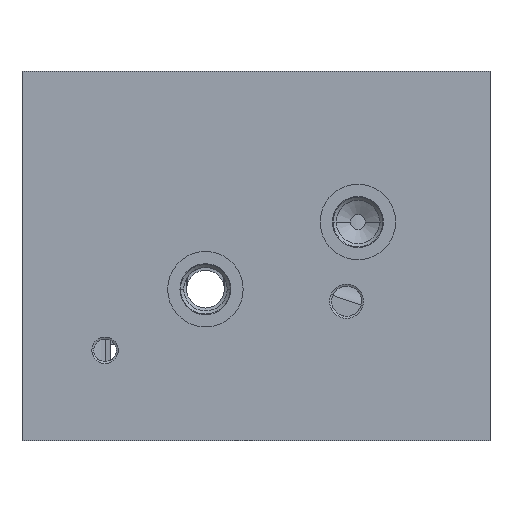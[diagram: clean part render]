
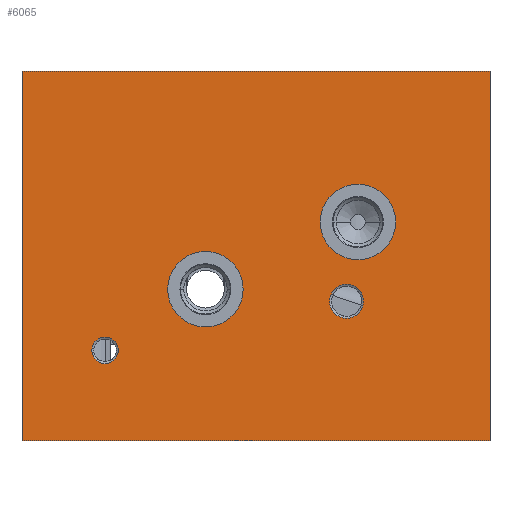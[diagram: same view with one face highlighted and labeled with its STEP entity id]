
A CAD part, left-side view. The second image highlights one B-rep face of the part: STEP entity #6065.
In plain terms, the highlighted planar face has unit normal (-1, 0, 0).
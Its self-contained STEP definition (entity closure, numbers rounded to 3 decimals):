
#321=DIRECTION('',(0.,0.,-1.));
#322=VECTOR('',#321,98.);
#323=CARTESIAN_POINT('',(-80.,0.,0.));
#324=LINE('',#323,#322);
#325=DIRECTION('',(0.,1.,0.));
#326=VECTOR('',#325,124.);
#327=CARTESIAN_POINT('',(-80.,0.,-98.));
#328=LINE('',#327,#326);
#329=DIRECTION('',(0.,0.,1.));
#330=VECTOR('',#329,98.);
#331=CARTESIAN_POINT('',(-80.,124.,-98.));
#332=LINE('',#331,#330);
#333=DIRECTION('',(0.,-1.,0.));
#334=VECTOR('',#333,124.);
#335=CARTESIAN_POINT('',(-80.,124.,0.));
#336=LINE('',#335,#334);
#337=CARTESIAN_POINT('',(-80.,38.,-61.));
#338=DIRECTION('',(1.,0.,0.));
#339=DIRECTION('',(0.,-1.,0.));
#340=AXIS2_PLACEMENT_3D('',#337,#338,#339);
#342=CARTESIAN_POINT('',(-80.,38.,-61.));
#343=DIRECTION('',(1.,0.,0.));
#344=DIRECTION('',(0.,1.,0.));
#345=AXIS2_PLACEMENT_3D('',#342,#343,#344);
#347=CARTESIAN_POINT('',(-80.,75.4,-57.8));
#348=DIRECTION('',(1.,0.,0.));
#349=DIRECTION('',(0.,-1.,0.));
#350=AXIS2_PLACEMENT_3D('',#347,#348,#349);
#352=CARTESIAN_POINT('',(-80.,75.4,-57.8));
#353=DIRECTION('',(1.,0.,0.));
#354=DIRECTION('',(0.,1.,0.));
#355=AXIS2_PLACEMENT_3D('',#352,#353,#354);
#357=CARTESIAN_POINT('',(-80.,35.,-40.));
#358=DIRECTION('',(1.,0.,0.));
#359=DIRECTION('',(0.,-1.,0.));
#360=AXIS2_PLACEMENT_3D('',#357,#358,#359);
#362=CARTESIAN_POINT('',(-80.,35.,-40.));
#363=DIRECTION('',(1.,0.,0.));
#364=DIRECTION('',(0.,1.,0.));
#365=AXIS2_PLACEMENT_3D('',#362,#363,#364);
#367=CARTESIAN_POINT('',(-80.,102.,-74.));
#368=DIRECTION('',(1.,0.,0.));
#369=DIRECTION('',(0.,-1.,0.));
#370=AXIS2_PLACEMENT_3D('',#367,#368,#369);
#372=CARTESIAN_POINT('',(-80.,102.,-74.));
#373=DIRECTION('',(1.,0.,0.));
#374=DIRECTION('',(0.,1.,0.));
#375=AXIS2_PLACEMENT_3D('',#372,#373,#374);
#4986=CARTESIAN_POINT('',(-80.,0.,0.));
#4987=CARTESIAN_POINT('',(-80.,0.,-98.));
#4988=VERTEX_POINT('',#4986);
#4989=VERTEX_POINT('',#4987);
#4990=CARTESIAN_POINT('',(-80.,124.,-98.));
#4991=VERTEX_POINT('',#4990);
#4992=CARTESIAN_POINT('',(-80.,124.,0.));
#4993=VERTEX_POINT('',#4992);
#5172=CARTESIAN_POINT('',(-80.,33.5,-61.));
#5173=CARTESIAN_POINT('',(-80.,42.5,-61.));
#5174=VERTEX_POINT('',#5172);
#5175=VERTEX_POINT('',#5173);
#5252=CARTESIAN_POINT('',(-80.,65.4,-57.8));
#5253=VERTEX_POINT('',#5252);
#5254=CARTESIAN_POINT('',(-80.,85.4,-57.8));
#5255=VERTEX_POINT('',#5254);
#5296=CARTESIAN_POINT('',(-80.,25.,-40.));
#5297=VERTEX_POINT('',#5296);
#5298=CARTESIAN_POINT('',(-80.,45.,-40.));
#5299=VERTEX_POINT('',#5298);
#5533=CARTESIAN_POINT('',(-80.,98.5,-74.));
#5534=VERTEX_POINT('',#5533);
#5535=CARTESIAN_POINT('',(-80.,105.5,-74.));
#5536=VERTEX_POINT('',#5535);
#6030=CARTESIAN_POINT('',(-80.,0.,0.));
#6031=DIRECTION('',(1.,0.,0.));
#6032=DIRECTION('',(0.,0.,-1.));
#6033=AXIS2_PLACEMENT_3D('',#6030,#6031,#6032);
#6034=PLANE('',#6033);
#6035=ORIENTED_EDGE('',*,*,#5846,.T.);
#6036=ORIENTED_EDGE('',*,*,#5916,.T.);
#6037=ORIENTED_EDGE('',*,*,#5955,.T.);
#6038=ORIENTED_EDGE('',*,*,#5999,.T.);
#6039=EDGE_LOOP('',(#6035,#6036,#6037,#6038));
#6040=FACE_OUTER_BOUND('',#6039,.F.);
#6042=ORIENTED_EDGE('',*,*,#6041,.F.);
#6044=ORIENTED_EDGE('',*,*,#6043,.F.);
#6045=EDGE_LOOP('',(#6042,#6044));
#6046=FACE_BOUND('',#6045,.F.);
#6048=ORIENTED_EDGE('',*,*,#6047,.F.);
#6050=ORIENTED_EDGE('',*,*,#6049,.F.);
#6051=EDGE_LOOP('',(#6048,#6050));
#6052=FACE_BOUND('',#6051,.F.);
#6054=ORIENTED_EDGE('',*,*,#6053,.F.);
#6056=ORIENTED_EDGE('',*,*,#6055,.F.);
#6057=EDGE_LOOP('',(#6054,#6056));
#6058=FACE_BOUND('',#6057,.F.);
#6060=ORIENTED_EDGE('',*,*,#6059,.F.);
#6062=ORIENTED_EDGE('',*,*,#6061,.F.);
#6063=EDGE_LOOP('',(#6060,#6062));
#6064=FACE_BOUND('',#6063,.F.);
#341=CIRCLE('',#340,4.5);
#346=CIRCLE('',#345,4.5);
#351=CIRCLE('',#350,10.);
#356=CIRCLE('',#355,10.);
#361=CIRCLE('',#360,10.);
#366=CIRCLE('',#365,10.);
#371=CIRCLE('',#370,3.5);
#376=CIRCLE('',#375,3.5);
#5846=EDGE_CURVE('',#4988,#4989,#324,.T.);
#5916=EDGE_CURVE('',#4989,#4991,#328,.T.);
#5955=EDGE_CURVE('',#4991,#4993,#332,.T.);
#5999=EDGE_CURVE('',#4993,#4988,#336,.T.);
#6041=EDGE_CURVE('',#5174,#5175,#341,.T.);
#6043=EDGE_CURVE('',#5175,#5174,#346,.T.);
#6047=EDGE_CURVE('',#5253,#5255,#351,.T.);
#6049=EDGE_CURVE('',#5255,#5253,#356,.T.);
#6053=EDGE_CURVE('',#5297,#5299,#361,.T.);
#6055=EDGE_CURVE('',#5299,#5297,#366,.T.);
#6059=EDGE_CURVE('',#5534,#5536,#371,.T.);
#6061=EDGE_CURVE('',#5536,#5534,#376,.T.);
#6065=ADVANCED_FACE('',(#6040,#6046,#6052,#6058,#6064),#6034,.F.);
